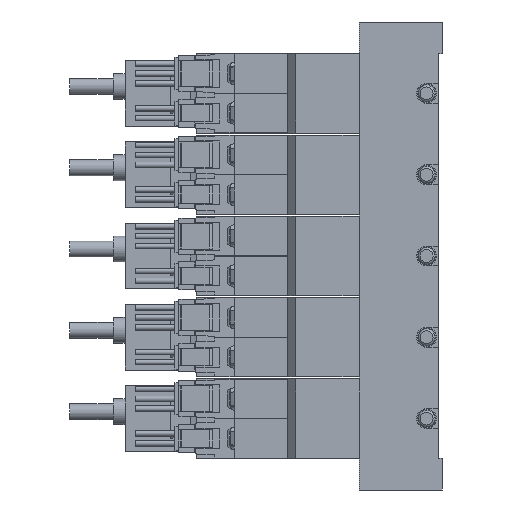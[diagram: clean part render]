
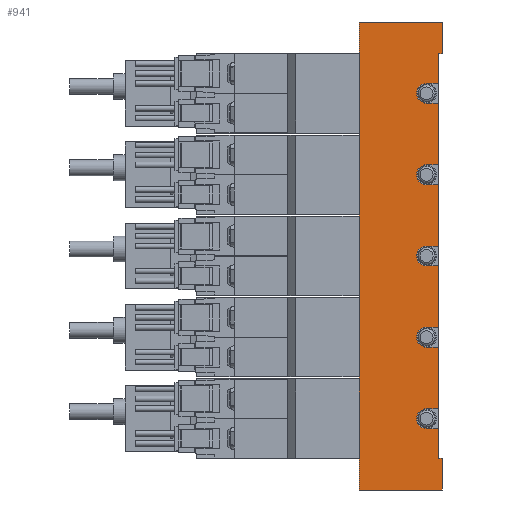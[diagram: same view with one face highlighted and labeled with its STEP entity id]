
A CAD part, left-side view. The second image highlights one B-rep face of the part: STEP entity #941.
In plain terms, the highlighted planar face has unit normal (-1, 0, 0) as drawn and (1, 0, 0) by its records, which use the part's own axes.
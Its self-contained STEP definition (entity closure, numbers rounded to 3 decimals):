
#941=ADVANCED_FACE('',(#2036),#2037,.F.);
#2036=FACE_OUTER_BOUND('',#3159,.T.);
#2037=PLANE('',#3160);
#3159=EDGE_LOOP('',(#6853,#6854,#6855,#6856,#6857,#6858,#6859,#6860,#6861,#6862,#6863,#6864,#6865,#6866,#6867,#6868,#6869,#6870,#6871,#6872,#6873,#6874,#6875,#6876,#6877,#6878,#6879,#6880));
#3160=AXIS2_PLACEMENT_3D('',#6881,#6882,#6883);
#6853=ORIENTED_EDGE('',*,*,#8129,.T.);
#6854=ORIENTED_EDGE('',*,*,#8130,.T.);
#6855=ORIENTED_EDGE('',*,*,#8110,.F.);
#6856=ORIENTED_EDGE('',*,*,#8131,.F.);
#6857=ORIENTED_EDGE('',*,*,#8132,.T.);
#6858=ORIENTED_EDGE('',*,*,#7979,.T.);
#6859=ORIENTED_EDGE('',*,*,#8125,.T.);
#6860=ORIENTED_EDGE('',*,*,#8067,.F.);
#6861=ORIENTED_EDGE('',*,*,#8107,.F.);
#6862=ORIENTED_EDGE('',*,*,#8049,.F.);
#6863=ORIENTED_EDGE('',*,*,#8124,.T.);
#6864=ORIENTED_EDGE('',*,*,#8084,.F.);
#6865=ORIENTED_EDGE('',*,*,#8090,.F.);
#6866=ORIENTED_EDGE('',*,*,#8057,.F.);
#6867=ORIENTED_EDGE('',*,*,#8123,.T.);
#6868=ORIENTED_EDGE('',*,*,#7989,.F.);
#6869=ORIENTED_EDGE('',*,*,#7999,.F.);
#6870=ORIENTED_EDGE('',*,*,#7951,.F.);
#6871=ORIENTED_EDGE('',*,*,#8122,.T.);
#6872=ORIENTED_EDGE('',*,*,#8115,.F.);
#6873=ORIENTED_EDGE('',*,*,#8133,.F.);
#6874=ORIENTED_EDGE('',*,*,#8134,.F.);
#6875=ORIENTED_EDGE('',*,*,#8120,.T.);
#6876=ORIENTED_EDGE('',*,*,#8096,.F.);
#6877=ORIENTED_EDGE('',*,*,#8065,.F.);
#6878=ORIENTED_EDGE('',*,*,#8003,.F.);
#6879=ORIENTED_EDGE('',*,*,#8119,.T.);
#6880=ORIENTED_EDGE('',*,*,#8032,.T.);
#6881=CARTESIAN_POINT('',(17.5,1.0,59.0));
#6882=DIRECTION('',(-1.0,0.0,0.0));
#6883=DIRECTION('',(0.0,0.0,1.0));
#7951=EDGE_CURVE('',#9772,#9773,#9774,.T.);
#7979=EDGE_CURVE('',#9829,#9826,#9830,.T.);
#7989=EDGE_CURVE('',#9848,#9849,#9850,.T.);
#7999=EDGE_CURVE('',#9773,#9848,#9867,.T.);
#8003=EDGE_CURVE('',#9872,#9873,#9874,.T.);
#8032=EDGE_CURVE('',#9920,#9926,#9928,.T.);
#8049=EDGE_CURVE('',#9957,#9958,#9959,.T.);
#8057=EDGE_CURVE('',#9971,#9972,#9973,.T.);
#8065=EDGE_CURVE('',#9873,#9986,#9987,.T.);
#8067=EDGE_CURVE('',#9989,#9990,#9991,.T.);
#8084=EDGE_CURVE('',#10018,#10019,#10020,.T.);
#8090=EDGE_CURVE('',#9972,#10018,#10028,.T.);
#8096=EDGE_CURVE('',#9986,#10038,#10039,.T.);
#8107=EDGE_CURVE('',#9958,#9989,#10054,.T.);
#8110=EDGE_CURVE('',#10057,#10055,#10059,.T.);
#8115=EDGE_CURVE('',#10066,#10067,#10068,.T.);
#8119=EDGE_CURVE('',#9872,#9920,#10073,.T.);
#8120=EDGE_CURVE('',#10074,#10038,#10075,.T.);
#8122=EDGE_CURVE('',#9772,#10067,#10077,.T.);
#8123=EDGE_CURVE('',#9971,#9849,#10078,.T.);
#8124=EDGE_CURVE('',#9957,#10019,#10079,.T.);
#8125=EDGE_CURVE('',#9826,#9990,#10080,.T.);
#8129=EDGE_CURVE('',#9926,#10086,#10087,.T.);
#8130=EDGE_CURVE('',#10086,#10055,#10088,.T.);
#8131=EDGE_CURVE('',#10089,#10057,#10090,.T.);
#8132=EDGE_CURVE('',#10089,#9829,#10091,.T.);
#8133=EDGE_CURVE('',#10092,#10066,#10093,.T.);
#8134=EDGE_CURVE('',#10074,#10092,#10094,.T.);
#9772=VERTEX_POINT('',#12766);
#9773=VERTEX_POINT('',#12767);
#9774=LINE('',#12768,#12769);
#9826=VERTEX_POINT('',#13006);
#9829=VERTEX_POINT('',#13010);
#9830=LINE('',#13011,#13012);
#9848=VERTEX_POINT('',#13034);
#9849=VERTEX_POINT('',#13035);
#9850=LINE('',#13036,#13037);
#9867=CIRCLE('',#13061,2.5);
#9872=VERTEX_POINT('',#13066);
#9873=VERTEX_POINT('',#13067);
#9874=LINE('',#13068,#13069);
#9920=VERTEX_POINT('',#13124);
#9926=VERTEX_POINT('',#13133);
#9928=LINE('',#13136,#13137);
#9957=VERTEX_POINT('',#13170);
#9958=VERTEX_POINT('',#13171);
#9959=LINE('',#13172,#13173);
#9971=VERTEX_POINT('',#13191);
#9972=VERTEX_POINT('',#13192);
#9973=LINE('',#13193,#13194);
#9986=VERTEX_POINT('',#13210);
#9987=CIRCLE('',#13211,2.5);
#9989=VERTEX_POINT('',#13214);
#9990=VERTEX_POINT('',#13215);
#9991=LINE('',#13216,#13217);
#10018=VERTEX_POINT('',#13252);
#10019=VERTEX_POINT('',#13253);
#10020=LINE('',#13254,#13255);
#10028=CIRCLE('',#13266,2.5);
#10038=VERTEX_POINT('',#13278);
#10039=LINE('',#13279,#13280);
#10054=CIRCLE('',#13298,2.5);
#10055=VERTEX_POINT('',#13299);
#10057=VERTEX_POINT('',#13302);
#10059=LINE('',#13305,#13306);
#10066=VERTEX_POINT('',#13314);
#10067=VERTEX_POINT('',#13315);
#10068=LINE('',#13316,#13317);
#10073=LINE('',#13324,#13325);
#10074=VERTEX_POINT('',#13326);
#10075=LINE('',#13327,#13328);
#10077=LINE('',#13331,#13332);
#10078=LINE('',#13333,#13334);
#10079=LINE('',#13335,#13336);
#10080=LINE('',#13337,#13338);
#10086=VERTEX_POINT('',#13344);
#10087=LINE('',#13345,#13346);
#10088=LINE('',#13347,#13348);
#10089=VERTEX_POINT('',#13349);
#10090=LINE('',#13350,#13351);
#10091=LINE('',#13352,#13353);
#10092=VERTEX_POINT('',#13354);
#10093=CIRCLE('',#13355,2.5);
#10094=LINE('',#13356,#13357);
#12766=CARTESIAN_POINT('',(17.5,1.0,-2.5));
#12767=CARTESIAN_POINT('',(17.5,4.0,-2.5));
#12768=CARTESIAN_POINT('',(17.5,1.0,-2.5));
#12769=VECTOR('',#14579,1.0);
#13006=CARTESIAN_POINT('',(17.5,1.0,51.0));
#13010=CARTESIAN_POINT('',(17.5,0.0,51.0));
#13011=CARTESIAN_POINT('',(17.5,0.0,51.0));
#13012=VECTOR('',#14629,1.0);
#13034=CARTESIAN_POINT('',(17.5,4.0,2.5));
#13035=CARTESIAN_POINT('',(17.5,1.0,2.5));
#13036=CARTESIAN_POINT('',(17.5,1.0,2.5));
#13037=VECTOR('',#14649,1.0);
#13061=AXIS2_PLACEMENT_3D('',#14663,#14664,#14665);
#13066=CARTESIAN_POINT('',(17.5,1.0,-43.5));
#13067=CARTESIAN_POINT('',(17.5,4.0,-43.5));
#13068=CARTESIAN_POINT('',(17.5,1.0,-43.5));
#13069=VECTOR('',#14672,1.0);
#13124=CARTESIAN_POINT('',(17.5,1.0,-51.0));
#13133=CARTESIAN_POINT('',(17.5,0.0,-51.0));
#13136=CARTESIAN_POINT('',(17.5,4.0,-51.0));
#13137=VECTOR('',#14731,1.0);
#13170=CARTESIAN_POINT('',(17.5,1.0,38.5));
#13171=CARTESIAN_POINT('',(17.5,4.0,38.5));
#13172=CARTESIAN_POINT('',(17.5,1.0,38.5));
#13173=VECTOR('',#14769,1.0);
#13191=CARTESIAN_POINT('',(17.5,1.0,18.0));
#13192=CARTESIAN_POINT('',(17.5,4.0,18.0));
#13193=CARTESIAN_POINT('',(17.5,1.0,18.0));
#13194=VECTOR('',#14779,1.0);
#13210=CARTESIAN_POINT('',(17.5,4.0,-38.5));
#13211=AXIS2_PLACEMENT_3D('',#14795,#14796,#14797);
#13214=CARTESIAN_POINT('',(17.5,4.0,43.5));
#13215=CARTESIAN_POINT('',(17.5,1.0,43.5));
#13216=CARTESIAN_POINT('',(17.5,1.0,43.5));
#13217=VECTOR('',#14799,1.0);
#13252=CARTESIAN_POINT('',(17.5,4.0,23.0));
#13253=CARTESIAN_POINT('',(17.5,1.0,23.0));
#13254=CARTESIAN_POINT('',(17.5,1.0,23.0));
#13255=VECTOR('',#14832,1.0);
#13266=AXIS2_PLACEMENT_3D('',#14842,#14843,#14844);
#13278=CARTESIAN_POINT('',(17.5,1.0,-38.5));
#13279=CARTESIAN_POINT('',(17.5,1.0,-38.5));
#13280=VECTOR('',#14856,1.0);
#13298=AXIS2_PLACEMENT_3D('',#14878,#14879,#14880);
#13299=CARTESIAN_POINT('',(17.5,21.0,-59.0));
#13302=CARTESIAN_POINT('',(17.5,21.0,59.0));
#13305=CARTESIAN_POINT('',(17.5,21.0,59.0));
#13306=VECTOR('',#14883,1.0);
#13314=CARTESIAN_POINT('',(17.5,4.0,-18.0));
#13315=CARTESIAN_POINT('',(17.5,1.0,-18.0));
#13316=CARTESIAN_POINT('',(17.5,1.0,-18.0));
#13317=VECTOR('',#14894,1.0);
#13324=CARTESIAN_POINT('',(17.5,1.0,59.0));
#13325=VECTOR('',#14900,1.0);
#13326=CARTESIAN_POINT('',(17.5,1.0,-23.0));
#13327=CARTESIAN_POINT('',(17.5,1.0,59.0));
#13328=VECTOR('',#14901,1.0);
#13331=CARTESIAN_POINT('',(17.5,1.0,59.0));
#13332=VECTOR('',#14903,1.0);
#13333=CARTESIAN_POINT('',(17.5,1.0,59.0));
#13334=VECTOR('',#14904,1.0);
#13335=CARTESIAN_POINT('',(17.5,1.0,59.0));
#13336=VECTOR('',#14905,1.0);
#13337=CARTESIAN_POINT('',(17.5,1.0,59.0));
#13338=VECTOR('',#14906,1.0);
#13344=CARTESIAN_POINT('',(17.5,0.0,-59.0));
#13345=CARTESIAN_POINT('',(17.5,0.0,-51.0));
#13346=VECTOR('',#14916,1.0);
#13347=CARTESIAN_POINT('',(17.5,1.0,-59.0));
#13348=VECTOR('',#14917,1.0);
#13349=CARTESIAN_POINT('',(17.5,0.0,59.0));
#13350=CARTESIAN_POINT('',(17.5,1.0,59.0));
#13351=VECTOR('',#14918,1.0);
#13352=CARTESIAN_POINT('',(17.5,0.0,59.0));
#13353=VECTOR('',#14919,1.0);
#13354=CARTESIAN_POINT('',(17.5,4.0,-23.0));
#13355=AXIS2_PLACEMENT_3D('',#14920,#14921,#14922);
#13356=CARTESIAN_POINT('',(17.5,1.0,-23.0));
#13357=VECTOR('',#14923,1.0);
#14579=DIRECTION('',(0.0,1.0,0.0));
#14629=DIRECTION('',(0.0,1.0,0.0));
#14649=DIRECTION('',(0.0,-1.0,0.0));
#14663=CARTESIAN_POINT('',(17.5,4.0,0.0));
#14664=DIRECTION('',(1.0,0.0,-0.0));
#14665=DIRECTION('',(0.0,0.0,1.0));
#14672=DIRECTION('',(0.0,1.0,0.0));
#14731=DIRECTION('',(0.0,-1.0,0.0));
#14769=DIRECTION('',(0.0,1.0,0.0));
#14779=DIRECTION('',(0.0,1.0,0.0));
#14795=CARTESIAN_POINT('',(17.5,4.0,-41.0));
#14796=DIRECTION('',(1.0,0.0,-0.0));
#14797=DIRECTION('',(0.0,0.0,1.0));
#14799=DIRECTION('',(0.0,-1.0,0.0));
#14832=DIRECTION('',(0.0,-1.0,0.0));
#14842=CARTESIAN_POINT('',(17.5,4.0,20.5));
#14843=DIRECTION('',(1.0,0.0,-0.0));
#14844=DIRECTION('',(0.0,0.0,1.0));
#14856=DIRECTION('',(0.0,-1.0,0.0));
#14878=CARTESIAN_POINT('',(17.5,4.0,41.0));
#14879=DIRECTION('',(1.0,0.0,-0.0));
#14880=DIRECTION('',(0.0,0.0,1.0));
#14883=DIRECTION('',(0.0,0.0,-1.0));
#14894=DIRECTION('',(0.0,-1.0,0.0));
#14900=DIRECTION('',(0.0,0.0,-1.0));
#14901=DIRECTION('',(0.0,0.0,-1.0));
#14903=DIRECTION('',(0.0,0.0,-1.0));
#14904=DIRECTION('',(0.0,0.0,-1.0));
#14905=DIRECTION('',(0.0,0.0,-1.0));
#14906=DIRECTION('',(0.0,0.0,-1.0));
#14916=DIRECTION('',(0.0,0.0,-1.0));
#14917=DIRECTION('',(0.0,1.0,0.0));
#14918=DIRECTION('',(0.0,1.0,0.0));
#14919=DIRECTION('',(0.0,0.0,-1.0));
#14920=CARTESIAN_POINT('',(17.5,4.0,-20.5));
#14921=DIRECTION('',(1.0,0.0,-0.0));
#14922=DIRECTION('',(0.0,0.0,1.0));
#14923=DIRECTION('',(0.0,1.0,0.0));
